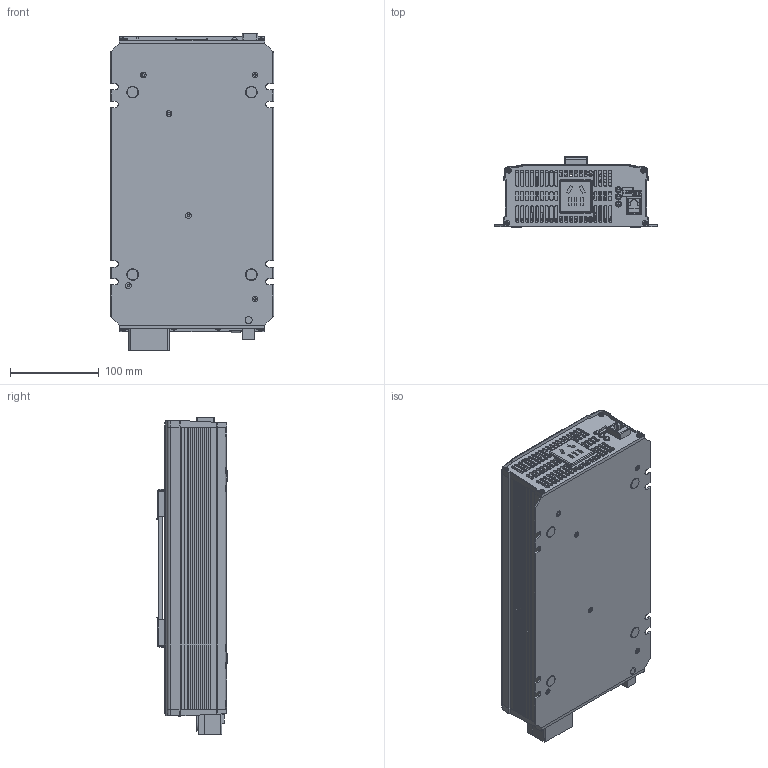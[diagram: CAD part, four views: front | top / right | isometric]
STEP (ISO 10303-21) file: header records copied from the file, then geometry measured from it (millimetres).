
FILE_DESCRIPTION(('Creo Elements/Direct Modeling STEP Export'),'2;1');
FILE_NAME('NTS-1200CN.stp','2024-07-09T13:43:29',(''),(''),'PTC Creo Elements/Direct Modeling STEP processor for AP214 (Solid Model)','PTC Creo Elements/Direct Modeling 19.0E 27-Jun-2016 (C) Parametric Technology GmbH','');
FILE_SCHEMA(('AUTOMOTIVE_DESIGN { 1 0 10303 214 1 1 1 1 }'));
Length unit declared in the file: millimetre
Products named in the file (118): 中国插; 中国插.stp; 19-30286-1312__w__.1.1.1.1; 19-30286-1312__w__.1.1.1; 19-30286-1312__w__.1; 19-30286-1312__w__.1.1; 螺丝1; 19-30286-1312__w__.1.2; 19-30286-1312__w__.1.2.1; 19-30286-1312__w__.1.2.1.1; 19-30286-1312__w__.1.2.1.1.1; 螺丝1.1; 螺丝; 1xx3NTU-1200-I; PCBB; PCBA; PCBC; PCB; PCB-D; 9727R_PCB_ASM_ASM_ASM_16_ASM_1_.ASM; STANDARD_ASM_ASM_ASM_16_ASM_1_A.ASM; 拨码开关; E_1_PRT_16_1_1_5.PRT; E_PRT_16_1_1_5.PRT; LED_1_PRT_2_1_1_1_1_1_1_PRT_16_.PRT.7; P1.PRT; PHONE_JACK_1.PRT; 9727R_PCB.ASM; STANDARD.ASM; 9727R_PHII.ASM; DP1; 小卡装配; MOS15_5X10_1_1_1_1_1_1_1_1_1_2_.PRT.27; P3; MOSTO3P_1_1_PRT_16_1_1_5.PRT.41; MOSTO3P_1_1_PRT_16_1_1_5.PRT.40; T_7.PRT; MOSTO3P_1_1_PRT_16_1_1_5.PRT.42; 22; 33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
Assembly tree (134 placements, depth 9):
  中国插.stp
    中国插
      中国插
  NTS-1200CN.stp
    NTU-1200
      1xx3NTS-1200CN-O
      装配1
        1GG
          YS031W-074.1
          YS031W-074
          HS-SZ901
          CU-177-1  x2
          HS-659
            HS3_1_ASM_5.ASM
              HS3_5.PRT
              PIN_1_5.PRT
          HS-660
          33_PRT_16_1_1_5.PRT.38  x2
          HS-272B
        1HH
          1HH2NTU-1200A.1
          130x65
          THERMAL_PAD-2_5.PRT
          THERMAL_PAD-1_8.PRT
          SI_PRT_16_1_1_5.PRT
          SILICONE_PAD_5.PRT
          MYLAR_PRT_16_1_1_5.PRT
          MYLAR-2_5.PRT
          1HH2NTU-120019
        CASE
          PAD
            FOOT_PAD_7_1.PRT.30
            FOOT_PAD_7_1.PRT.31
            FOOT_PAD_7_1.PRT
            FOOT_PAD_7_1.PRT.29
          固纬把手
            174
            guwei1
            guwei1.1
          CASE上盖
          CASE下盖
            M3-7L_1_PRT_16_1_1_5.PRT.1
            M3-7L_1_PRT_16_1_1_5.PRT
            M3-7L_1_PRT_16_1_1_5.PRT.6
            M3-7L_1_PRT_16_1_1_5.PRT.5
            77_PRT_16_1_1_5.PRT
            M3-7L_1_PRT_16_1_1_5.PRT.7
            M3-7L_1_PRT_16_1_1_5.PRT.9
            CASE
        装配
          A1_1_ASM_ASM_ASM_16_ASM_1_ASM_1.ASM
            A_ASM_PRT_16_1_1_5.PRT
            ALL_ASM_ASM_ASM_16_ASM_1_ASM_1_.ASM
              MHS-2_PRT_PRT_16_1_1_5.PRT
              PCB_5_ASM_ASM_ASM_16_ASM_1_ASM_.ASM
                A3_ASM_ASM_ASM_16_ASM_1_ASM_1_A.ASM
                  _S___S_C_S_Y_S___X2_02C6_X0_O__.PRT
                  _S_Y_S_Q_S___S___PRT_PRT_16_1_1.PRT
              _S___S_U_S_KX_ASM_ASM_ASM_16_AS.ASM
                _S___S_G_S_NA_S___S_H_X2_02DC__.PRT
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Bounding box: 184 x 79.45 x 357.3 mm (x, y, z)
Volume: 976889.1 mm3; surface area: 866961 mm2
Topology: 94 solids, 94 shells, 3458 faces, 9010 edges, 5911 vertices
Faces by surface type: plane 2169, cylinder 819, cone 361, bspline 52, torus 40, sphere 16, extrusion 1
Entity records: 98265 total; most frequent: CARTESIAN_POINT 21801, ORIENTED_EDGE 15636, DIRECTION 14631, EDGE_CURVE 7804, VECTOR 5375, LINE 5374, VERTEX_POINT 5123, AXIS2_PLACEMENT_3D 4628
